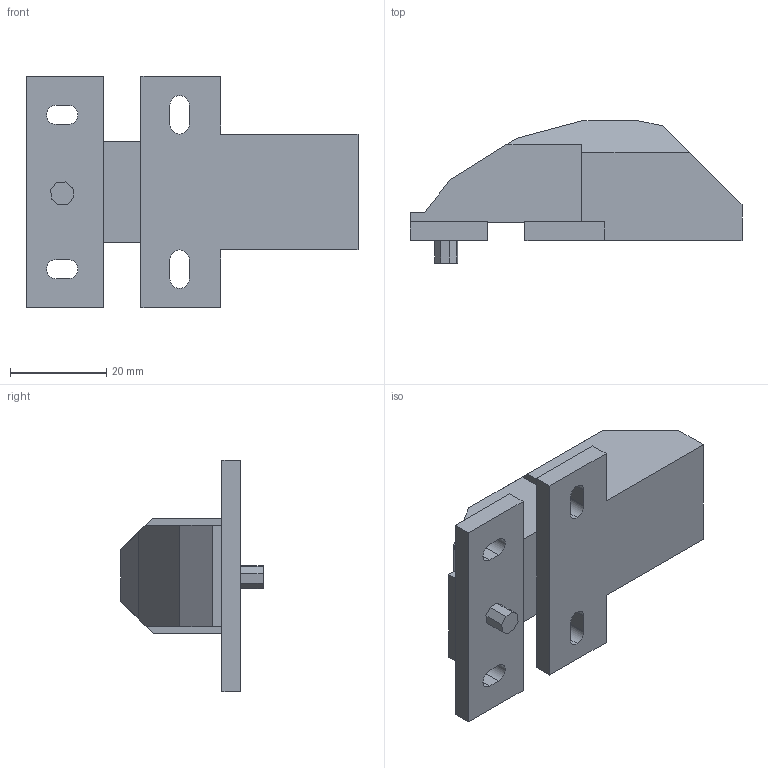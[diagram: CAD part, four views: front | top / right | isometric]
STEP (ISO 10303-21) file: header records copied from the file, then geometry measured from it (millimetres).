
FILE_DESCRIPTION (( 'STEP AP214' ), '1' );
FILE_NAME ('Verbindungsscharnier_Kinvaro_F-20_D2859025125~0-STGA.STEP', '2016-05-17T08:13:13', ( 'Admin' ), ( 'Hewlett-Packard Company' ), 'SwSTEP 2.0', 'SolidWorks 2015', '' );
FILE_SCHEMA (( 'AUTOMOTIVE_DESIGN' ));
Length unit declared in the file: millimetre
Products named in the file (1): Verbindungsscharnier_Kinvaro_F-20_D2859025125~0-STGA
Bounding box: 68.84 x 29.49 x 48 mm (x, y, z)
Volume: 30444 mm3; surface area: 8481.9 mm2
Topology: 1 solids, 1 shells, 62 faces, 177 edges, 118 vertices
Faces by surface type: plane 51, cylinder 11
Entity records: 2053 total; most frequent: CARTESIAN_POINT 361, ORIENTED_EDGE 354, DIRECTION 323, EDGE_CURVE 177, VECTOR 155, LINE 155, VERTEX_POINT 118, AXIS2_PLACEMENT_3D 84
